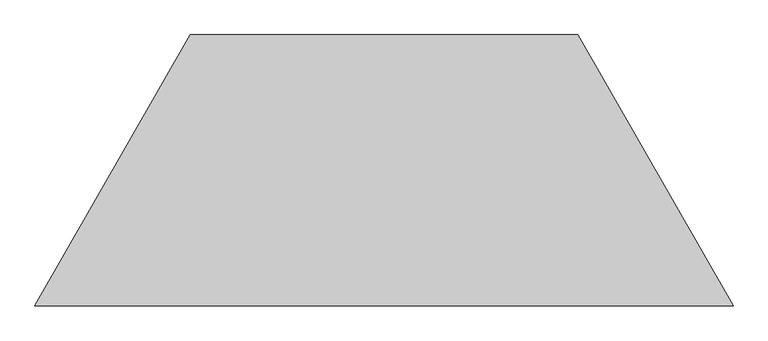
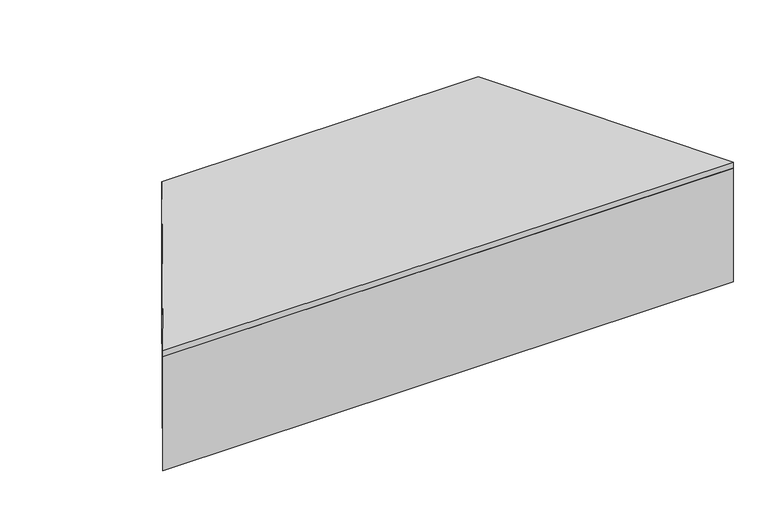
"""IFC4 building model written with IfcOpenShell, lengths in millimetres: furniture geometry, C06 Asiento Trapecio : C06 Asiento Trapecio 180x40."""

from ifc_helpers import new_model, si_unit, frame, origin, origin_with_axes, place, context, project, spatial, polyline, outline, extrude, source, transform, mapped, element, save


def furniture_2b1f3197(model_context):
    return source(origin(), model_context, "Body", "SweptSolid", [
        extrude(outline(polyline([(-500.0, 700.0), (500.0, 700.0), (900.0, 0.0), (-900.0, 0.0), (-500.0, 700.0)]), holes=[polyline([(-865.5364064, 20.0), (865.5364064, 20.0), (488.3935493, 680.0), (-488.3935493, 680.0), (-865.5364064, 20.0)])]), origin_with_axes(), (0.0, 0.0, 1.0), 380.0),
        extrude(outline(polyline([(900.0, 0.0), (-900.0, 0.0), (-500.0, 700.0), (500.0, 700.0), (900.0, 0.0)])), frame((0.0, 0.0, 380.0), z_axis=(0.0, 0.0, 1.0), x_axis=(1.0, 0.0, 0.0)), (0.0, 0.0, 1.0), 20.0),
    ])


if __name__ == "__main__":
    model = new_model("IFC4")
    model_context = context("Model", 3, world=origin())
    ifc_project = project(units=[si_unit("LENGTHUNIT", "METRE", prefix="MILLI")], contexts=[model_context])
    site = spatial("IfcSite", under=ifc_project)
    building = spatial("IfcBuilding", under=site)
    placement = place(None, origin())
    furniture_shape = furniture_2b1f3197(model_context)
    element("IfcFurniture", 1, ObjectType="C06 Asiento Trapecio : C06 Asiento Trapecio 180x40", at=placement, inside=building, context=model_context, shape_type="MappedRepresentation", body=[
        mapped(furniture_shape, transform((0.0, 0.0, 0.0), x_axis=(1.0, 0.0, 0.0), y_axis=(0.0, 1.0, 0.0), z_axis=(0.0, 0.0, 1.0))),
    ])
    save(model, "model.ifc")
